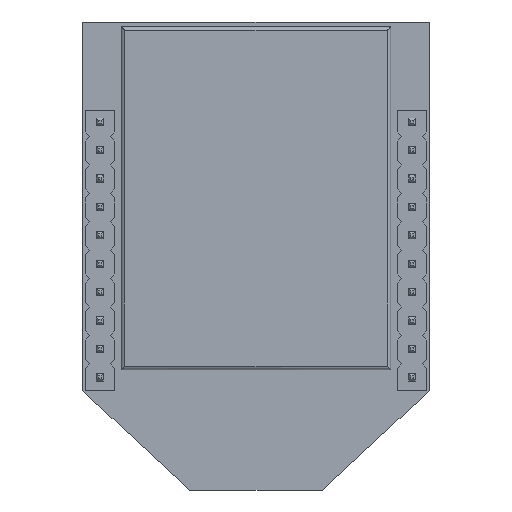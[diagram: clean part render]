
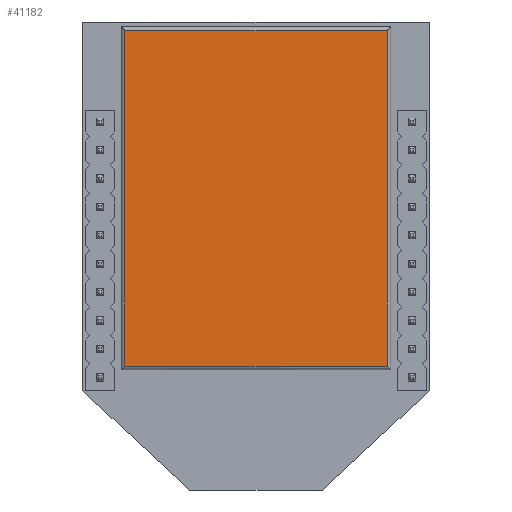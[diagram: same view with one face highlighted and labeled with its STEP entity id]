
A CAD part, front view. The second image highlights one B-rep face of the part: STEP entity #41182.
In plain terms, the highlighted planar face has unit normal (0, -1, 0).
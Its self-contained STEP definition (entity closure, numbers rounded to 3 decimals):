
#1044 = ORIENTED_EDGE ( 'NONE', *, *, #46870, .T. ) ;
#2395 = DIRECTION ( 'NONE',  ( 0., 0., 1. ) ) ;
#3076 = VERTEX_POINT ( 'NONE', #62838 ) ;
#5079 = AXIS2_PLACEMENT_3D ( 'NONE', #68097, #35288, #2395 ) ;
#5098 = CARTESIAN_POINT ( 'NONE',  ( -9.225, 0., 15.87 ) ) ;
#7221 = LINE ( 'NONE', #43491, #20137 ) ;
#14532 = EDGE_CURVE ( 'NONE', #44950, #3076, #44938, .T. ) ;
#14646 = EDGE_LOOP ( 'NONE', ( #1044, #45238, #26301, #39102 ) ) ;
#15288 = CARTESIAN_POINT ( 'NONE',  ( 0., 0., 15.87 ) ) ;
#15728 = VECTOR ( 'NONE', #29161, 1000. ) ;
#15850 = VERTEX_POINT ( 'NONE', #27256 ) ;
#20137 = VECTOR ( 'NONE', #60516, 1000. ) ;
#22124 = VECTOR ( 'NONE', #23261, 1000. ) ;
#23261 = DIRECTION ( 'NONE',  ( 1., 0., 0. ) ) ;
#26301 = ORIENTED_EDGE ( 'NONE', *, *, #14532, .T. ) ;
#27025 = VERTEX_POINT ( 'NONE', #39012 ) ;
#27256 = CARTESIAN_POINT ( 'NONE',  ( 9.225, 0., -7.75 ) ) ;
#29161 = DIRECTION ( 'NONE',  ( 0., 0., -1. ) ) ;
#31132 = DIRECTION ( 'NONE',  ( -1., 0., 0. ) ) ;
#31627 = EDGE_CURVE ( 'NONE', #3076, #15850, #36699, .T. ) ;
#34494 = VECTOR ( 'NONE', #31132, 1000. ) ;
#35288 = DIRECTION ( 'NONE',  ( 0., 1., 0. ) ) ;
#36225 = LINE ( 'NONE', #15288, #34494 ) ;
#36699 = LINE ( 'NONE', #45083, #22124 ) ;
#39012 = CARTESIAN_POINT ( 'NONE',  ( 9.225, 0., 15.87 ) ) ;
#39102 = ORIENTED_EDGE ( 'NONE', *, *, #31627, .T. ) ;
#40517 = PLANE ( 'NONE',  #5079 ) ;
#41182 = ADVANCED_FACE ( 'NONE', ( #71181 ), #40517, .F. ) ;
#43491 = CARTESIAN_POINT ( 'NONE',  ( 9.225, 0., 0. ) ) ;
#44938 = LINE ( 'NONE', #67735, #15728 ) ;
#44950 = VERTEX_POINT ( 'NONE', #5098 ) ;
#45083 = CARTESIAN_POINT ( 'NONE',  ( 0., 0., -7.75 ) ) ;
#45238 = ORIENTED_EDGE ( 'NONE', *, *, #68641, .T. ) ;
#46870 = EDGE_CURVE ( 'NONE', #15850, #27025, #7221, .T. ) ;
#60516 = DIRECTION ( 'NONE',  ( 0., 0., 1. ) ) ;
#62838 = CARTESIAN_POINT ( 'NONE',  ( -9.225, 0., -7.75 ) ) ;
#67735 = CARTESIAN_POINT ( 'NONE',  ( -9.225, 0., 0. ) ) ;
#68097 = CARTESIAN_POINT ( 'NONE',  ( 0., 0., 0. ) ) ;
#68641 = EDGE_CURVE ( 'NONE', #27025, #44950, #36225, .T. ) ;
#71181 = FACE_OUTER_BOUND ( 'NONE', #14646, .T. ) ;
